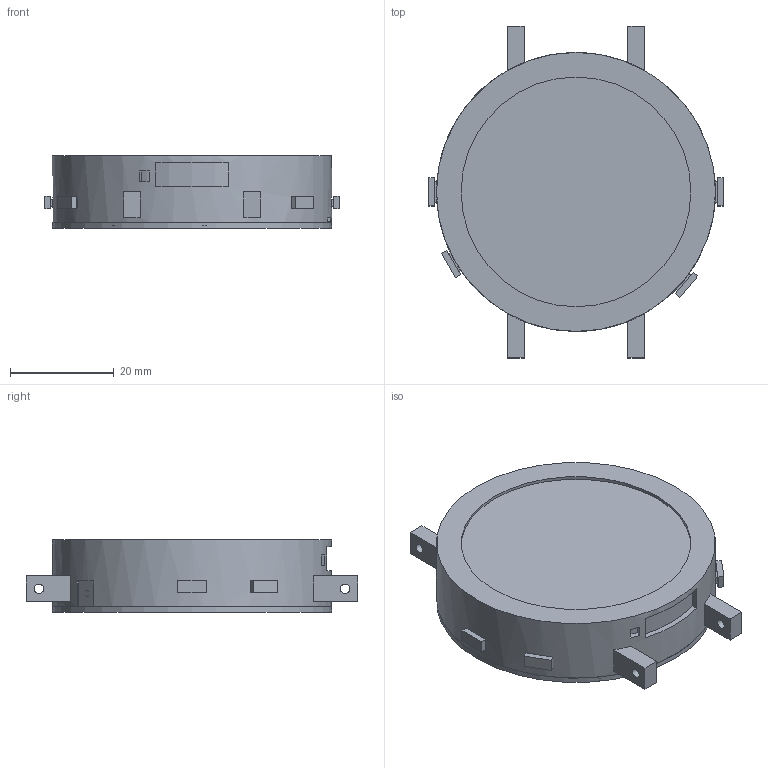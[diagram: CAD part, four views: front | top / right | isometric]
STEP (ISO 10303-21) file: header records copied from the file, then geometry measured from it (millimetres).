
FILE_DESCRIPTION(('Open CASCADE Model'),'2;1');
FILE_NAME('Open CASCADE Shape Model','2026-10-18T23:08:34',('Author'),( 'Open CASCADE'),'Open CASCADE STEP processor 7.9','Open CASCADE 7.9' ,'Unknown');
FILE_SCHEMA(('AUTOMOTIVE_DESIGN { 1 0 10303 214 1 1 1 1 }'));
Length unit declared in the file: millimetre
Products named in the file (37): UNVERIFIED_thin_notched; PRINT_key_1; PH_switch_1; PRINT_key_2; PH_switch_2; PRINT_key_3; PH_switch_3; PRINT_key_4; PH_switch_4; PRINT_rear_cover; PRINT_host_retainer; PRINT_speaker_cup; PH_speaker_SP1003_RESERVED; PH_speaker_gasket; PH_speaker_edge_retainer; CUT_LRA_rigid_shim; PH_LRA_VG0825003D; PRINT_PCB_post_-6.0_-19.0; PRINT_PCB_post_2.0_-13.0; PH_daughterboard; PH_core_components; PH_compass_island; PH_compass_IC; PH_barometer_island; PH_barometer_IC; PH_ALS_island; PH_ALS_IC; PH_pressure_membrane_UNSELECTED; PH_ALS_window; PRINT_ALS_blackout; PH_UNSELECTED_battery; CUT_dielectric_liner; PRINT_cell_guide_110; PRINT_cell_guide_290; PH_host_UNREGISTERED; PRINT_upper_housing; PH_pack_protection_UNSELECTED
Assembly tree (36 placements, depth 2):
  UNVERIFIED_thin_notched
    PRINT_key_1
    PH_switch_1
    PRINT_key_2
    PH_switch_2
    PRINT_key_3
    PH_switch_3
    PRINT_key_4
    PH_switch_4
    PRINT_rear_cover
    PRINT_host_retainer
    PRINT_speaker_cup
    PH_speaker_SP1003_RESERVED
    PH_speaker_gasket
    PH_speaker_edge_retainer
    CUT_LRA_rigid_shim
    PH_LRA_VG0825003D
    PRINT_PCB_post_-6.0_-19.0
    PRINT_PCB_post_2.0_-13.0
    PH_daughterboard
    PH_core_components
    PH_compass_island
    PH_compass_IC
    PH_barometer_island
    PH_barometer_IC
    PH_ALS_island
    PH_ALS_IC
    PH_pressure_membrane_UNSELECTED
    PH_ALS_window
    PRINT_ALS_blackout
    PH_UNSELECTED_battery
    CUT_dielectric_liner
    PRINT_cell_guide_110
    PRINT_cell_guide_290
    PH_host_UNREGISTERED
    PRINT_upper_housing
    PH_pack_protection_UNSELECTED
Bounding box: 56.8 x 64 x 13.9 mm (x, y, z)
Volume: 22196.1 mm3; surface area: 23572.1 mm2
Topology: 36 solids, 36 shells, 459 faces, 1080 edges, 720 vertices
Faces by surface type: plane 405, cylinder 54
Full cylindrical faces by diameter (mm): 1.1 x2, 1.2 x1, 1.36 x3, 1.6 x2, 1.8 x4, 1.9 x2, 2.7 x2, 3.3 x2, 8 x1, 9 x1, 9.2 x1, 9.6 x1, 10 x1, 10.6 x1, 10.7 x1, 10.8 x1, 12.8 x1, 44.3 x1, 46 x1, 50.9 x1, 51 x1, 51.6 x1, 53.8 x2
Entity records: 27871 total; most frequent: CARTESIAN_POINT 5803, DIRECTION 3684, LINE 2243, VECTOR 2243, ORIENTED_EDGE 2160, PCURVE 2160, DEFINITIONAL_REPRESENTATION 2160, EDGE_CURVE 1080
